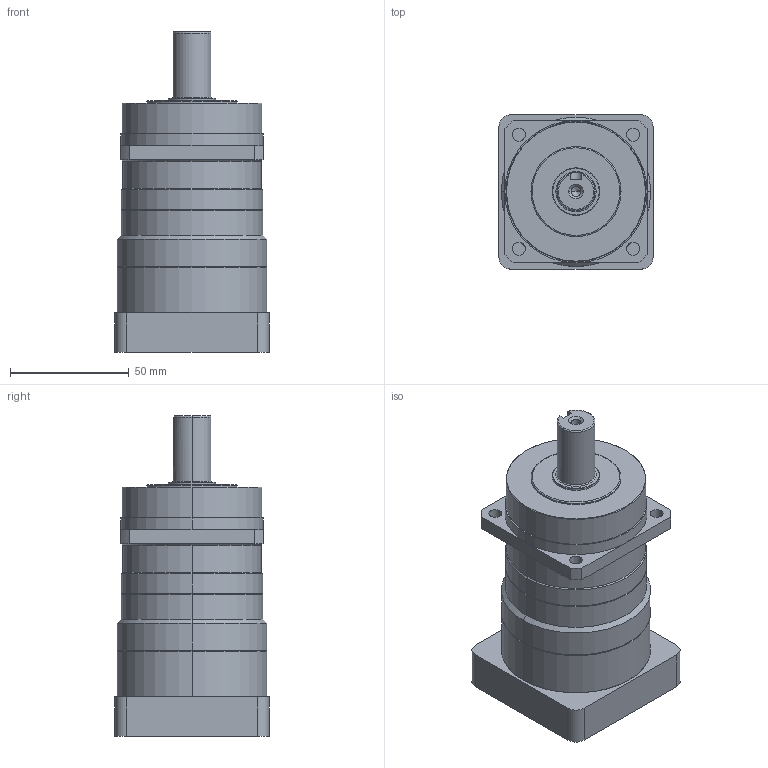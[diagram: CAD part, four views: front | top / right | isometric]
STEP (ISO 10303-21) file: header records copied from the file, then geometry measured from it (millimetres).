
FILE_DESCRIPTION (( 'STEP AP214' ), '1' );
FILE_NAME ('VRS060-L1-S2-P1 14-50-70-M4.STEP', '2023-08-31T08:29:21', ( '微软用户' ), ( '微软中国' ), 'SwSTEP 2.0', 'SolidWorks 2018', '' );
FILE_SCHEMA (( 'AUTOMOTIVE_DESIGN' ));
Length unit declared in the file: millimetre
Products named in the file (1): VRS060-L1-S2-P1 14-50-70-M4
Bounding box: 65 x 65 x 135 mm (x, y, z)
Volume: 317490 mm3; surface area: 37575.1 mm2
Topology: 1 solids, 1 shells, 118 faces, 265 edges, 161 vertices
Faces by surface type: cylinder 54, plane 33, cone 24, torus 7
Entity records: 3389 total; most frequent: DIRECTION 637, CARTESIAN_POINT 584, ORIENTED_EDGE 526, EDGE_CURVE 263, AXIS2_PLACEMENT_3D 258, VERTEX_POINT 161, EDGE_LOOP 140, CIRCLE 139
